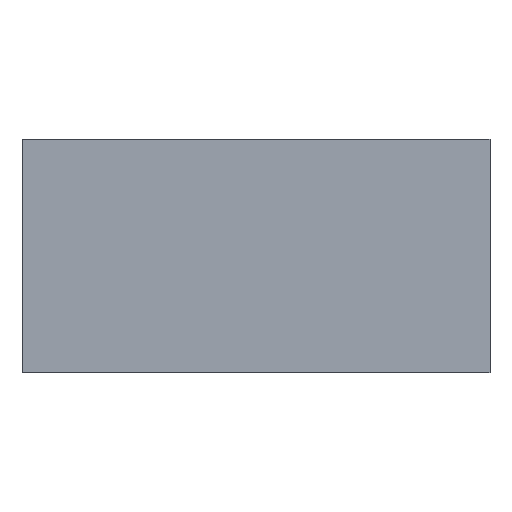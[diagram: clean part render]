
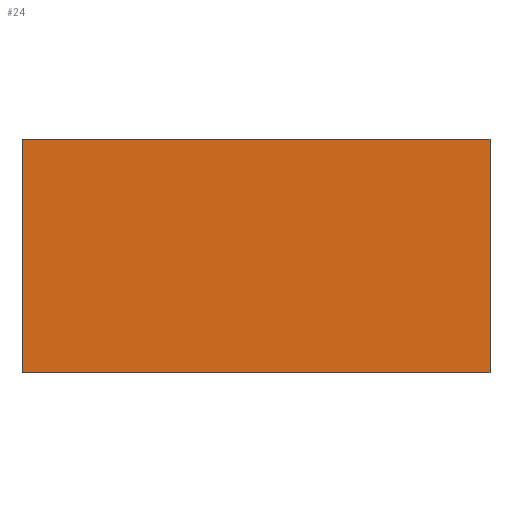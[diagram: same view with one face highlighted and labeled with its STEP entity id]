
A CAD part, front view. The second image highlights one B-rep face of the part: STEP entity #24.
In plain terms, the highlighted planar face has unit normal (0, -1, 0).
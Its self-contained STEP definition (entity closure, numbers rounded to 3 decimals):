
#24=ADVANCED_FACE('',(#30),#182,.T.);
#30=FACE_OUTER_BOUND('',#36,.T.);
#36=EDGE_LOOP('',(#42,#43,#44,#45));
#42=ORIENTED_EDGE('',*,*,#126,.T.);
#43=ORIENTED_EDGE('',*,*,#127,.T.);
#44=ORIENTED_EDGE('',*,*,#128,.T.);
#45=ORIENTED_EDGE('',*,*,#129,.T.);
#66=PCURVE('',#182,#90);
#67=PCURVE('',#182,#91);
#68=PCURVE('',#182,#92);
#69=PCURVE('',#182,#93);
#73=PCURVE('',#183,#97);
#79=PCURVE('',#185,#103);
#85=PCURVE('',#186,#109);
#86=PCURVE('',#187,#110);
#90=DEFINITIONAL_REPRESENTATION('',(#139),#313);
#91=DEFINITIONAL_REPRESENTATION('',(#141),#313);
#92=DEFINITIONAL_REPRESENTATION('',(#143),#313);
#93=DEFINITIONAL_REPRESENTATION('',(#145),#313);
#97=DEFINITIONAL_REPRESENTATION('',(#152),#313);
#103=DEFINITIONAL_REPRESENTATION('',(#162),#313);
#109=DEFINITIONAL_REPRESENTATION('',(#169),#313);
#110=DEFINITIONAL_REPRESENTATION('',(#170),#313);
#114=SURFACE_CURVE('',#138,(#66,#85),.PCURVE_S1.);
#115=SURFACE_CURVE('',#140,(#67,#73),.PCURVE_S1.);
#116=SURFACE_CURVE('',#142,(#68,#86),.PCURVE_S1.);
#117=SURFACE_CURVE('',#144,(#69,#79),.PCURVE_S1.);
#126=EDGE_CURVE('',#174,#175,#114,.T.);
#127=EDGE_CURVE('',#175,#176,#115,.T.);
#128=EDGE_CURVE('',#176,#177,#116,.T.);
#129=EDGE_CURVE('',#177,#174,#117,.T.);
#138=B_SPLINE_CURVE_WITH_KNOTS('',1,(#240,#241),.UNSPECIFIED.,.F.,.F.,(2,
2),(0.,18.),.UNSPECIFIED.);
#139=B_SPLINE_CURVE_WITH_KNOTS('',1,(#242,#243),.UNSPECIFIED.,.F.,.F.,(2,
2),(0.,18.),.UNSPECIFIED.);
#140=B_SPLINE_CURVE_WITH_KNOTS('',1,(#244,#245),.UNSPECIFIED.,.F.,.F.,(2,
2),(0.,160.),.UNSPECIFIED.);
#141=B_SPLINE_CURVE_WITH_KNOTS('',1,(#246,#247),.UNSPECIFIED.,.F.,.F.,(2,
2),(0.,160.),.UNSPECIFIED.);
#142=B_SPLINE_CURVE_WITH_KNOTS('',1,(#248,#249),.UNSPECIFIED.,.F.,.F.,(2,
2),(-18.,0.),.UNSPECIFIED.);
#143=B_SPLINE_CURVE_WITH_KNOTS('',1,(#250,#251),.UNSPECIFIED.,.F.,.F.,(2,
2),(-18.,0.),.UNSPECIFIED.);
#144=B_SPLINE_CURVE_WITH_KNOTS('',1,(#252,#253),.UNSPECIFIED.,.F.,.F.,(2,
2),(-160.,0.),.UNSPECIFIED.);
#145=B_SPLINE_CURVE_WITH_KNOTS('',1,(#254,#255),.UNSPECIFIED.,.F.,.F.,(2,
2),(-160.,0.),.UNSPECIFIED.);
#152=B_SPLINE_CURVE_WITH_KNOTS('',1,(#268,#269),.UNSPECIFIED.,.F.,.F.,(2,
2),(0.,160.),.UNSPECIFIED.);
#162=B_SPLINE_CURVE_WITH_KNOTS('',1,(#288,#289),.UNSPECIFIED.,.F.,.F.,(2,
2),(-160.,0.),.UNSPECIFIED.);
#169=B_SPLINE_CURVE_WITH_KNOTS('',1,(#302,#303),.UNSPECIFIED.,.F.,.F.,(2,
2),(0.,18.),.UNSPECIFIED.);
#170=B_SPLINE_CURVE_WITH_KNOTS('',1,(#304,#305),.UNSPECIFIED.,.F.,.F.,(2,
2),(-18.,0.),.UNSPECIFIED.);
#174=VERTEX_POINT('',#232);
#175=VERTEX_POINT('',#233);
#176=VERTEX_POINT('',#234);
#177=VERTEX_POINT('',#235);
#182=PLANE('',#208);
#183=PLANE('',#209);
#185=PLANE('',#211);
#186=PLANE('',#212);
#187=PLANE('',#213);
#208=AXIS2_PLACEMENT_3D('',#226,#217,$);
#209=AXIS2_PLACEMENT_3D('',#227,#218,$);
#211=AXIS2_PLACEMENT_3D('',#229,#220,$);
#212=AXIS2_PLACEMENT_3D('',#230,#221,$);
#213=AXIS2_PLACEMENT_3D('',#231,#222,$);
#217=DIRECTION('',(0.,-1.,0.));
#218=DIRECTION('',(1.,0.,0.));
#220=DIRECTION('',(-1.,0.,0.));
#221=DIRECTION('',(0.,0.,-1.));
#222=DIRECTION('',(0.,0.,1.));
#226=CARTESIAN_POINT('',(-20.,355.,160.));
#227=CARTESIAN_POINT('',(20.,355.,160.));
#229=CARTESIAN_POINT('',(-20.,545.,160.));
#230=CARTESIAN_POINT('',(-20.,355.,160.));
#231=CARTESIAN_POINT('',(-20.,355.,180.));
#232=CARTESIAN_POINT('',(-20.,355.,160.));
#233=CARTESIAN_POINT('',(20.,355.,160.));
#234=CARTESIAN_POINT('',(20.,355.,180.));
#235=CARTESIAN_POINT('',(-20.,355.,180.));
#240=CARTESIAN_POINT('',(-20.,355.,160.));
#241=CARTESIAN_POINT('',(20.,355.,160.));
#242=CARTESIAN_POINT('',(0.,0.));
#243=CARTESIAN_POINT('',(18.,0.));
#244=CARTESIAN_POINT('',(20.,355.,160.));
#245=CARTESIAN_POINT('',(20.,355.,180.));
#246=CARTESIAN_POINT('',(18.,0.));
#247=CARTESIAN_POINT('',(18.,160.));
#248=CARTESIAN_POINT('',(20.,355.,180.));
#249=CARTESIAN_POINT('',(-20.,355.,180.));
#250=CARTESIAN_POINT('',(18.,160.));
#251=CARTESIAN_POINT('',(0.,160.));
#252=CARTESIAN_POINT('',(-20.,355.,180.));
#253=CARTESIAN_POINT('',(-20.,355.,160.));
#254=CARTESIAN_POINT('',(0.,160.));
#255=CARTESIAN_POINT('',(0.,0.));
#268=CARTESIAN_POINT('',(18.,0.));
#269=CARTESIAN_POINT('',(18.,160.));
#288=CARTESIAN_POINT('',(436.,160.));
#289=CARTESIAN_POINT('',(436.,0.));
#302=CARTESIAN_POINT('',(0.,0.));
#303=CARTESIAN_POINT('',(0.,40.));
#304=CARTESIAN_POINT('',(40.,0.));
#305=CARTESIAN_POINT('',(0.,0.));
#313=(
GEOMETRIC_REPRESENTATION_CONTEXT(2)
PARAMETRIC_REPRESENTATION_CONTEXT()
REPRESENTATION_CONTEXT('pspace','')
);
